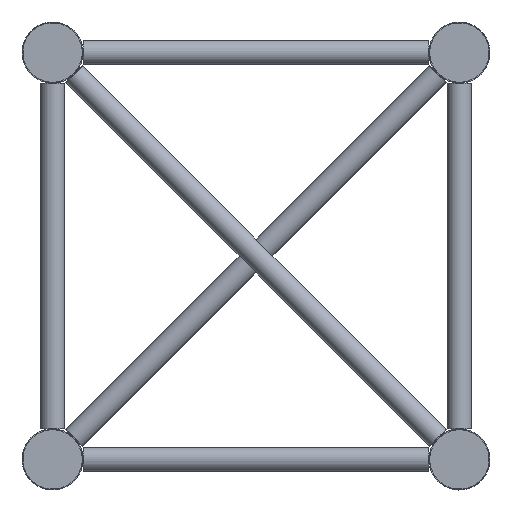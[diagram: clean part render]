
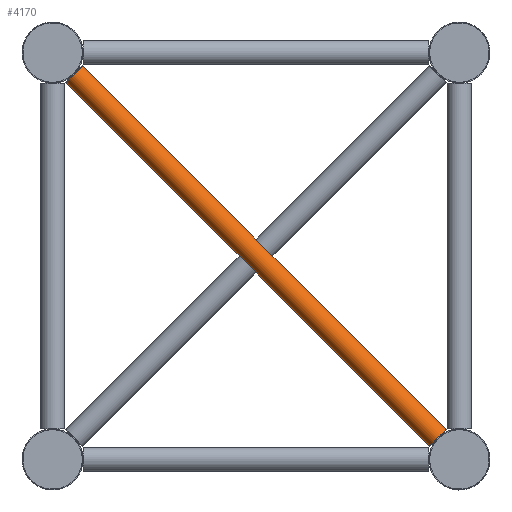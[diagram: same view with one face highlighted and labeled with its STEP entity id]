
A CAD part, left-side view. The second image highlights one B-rep face of the part: STEP entity #4170.
In plain terms, the highlighted cylindrical face has radius 10 mm (diameter 20 mm), a full revolution.
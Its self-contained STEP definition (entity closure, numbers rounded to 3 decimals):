
#661=CYLINDRICAL_SURFACE('',#4621,10.);
#836=FACE_BOUND('',#1510,.T.);
#1084=FACE_OUTER_BOUND('',#1509,.T.);
#1509=EDGE_LOOP('',(#3475));
#1510=EDGE_LOOP('',(#3476));
#1584=CIRCLE('',#4620,10.);
#1585=CIRCLE('',#4622,10.);
#1942=VERTEX_POINT('',#7976);
#1943=VERTEX_POINT('',#7979);
#2444=EDGE_CURVE('',#1942,#1942,#1584,.T.);
#2445=EDGE_CURVE('',#1943,#1943,#1585,.T.);
#3475=ORIENTED_EDGE('',*,*,#2444,.T.);
#3476=ORIENTED_EDGE('',*,*,#2445,.T.);
#4170=ADVANCED_FACE('',(#1084,#836),#661,.T.);
#4620=AXIS2_PLACEMENT_3D('',#7977,#5654,#5655);
#4621=AXIS2_PLACEMENT_3D('',#7978,#5656,#5657);
#4622=AXIS2_PLACEMENT_3D('',#7980,#5658,#5659);
#5654=DIRECTION('center_axis',(0.,0.707,
0.707));
#5655=DIRECTION('ref_axis',(0.,0.707,-0.707));
#5656=DIRECTION('center_axis',(0.,0.707,
0.707));
#5657=DIRECTION('ref_axis',(0.,0.707,-0.707));
#5658=DIRECTION('center_axis',(0.,-0.707,
-0.707));
#5659=DIRECTION('ref_axis',(0.,0.707,-0.707));
#7976=CARTESIAN_POINT('',(60.,10.967,-313.891));
#7977=CARTESIAN_POINT('Origin',(60.,18.038,-320.962));
#7978=CARTESIAN_POINT('Origin',(60.,169.5,-169.5));
#7979=CARTESIAN_POINT('',(60.,313.891,-10.967));
#7980=CARTESIAN_POINT('Origin',(60.,320.962,-18.038));
